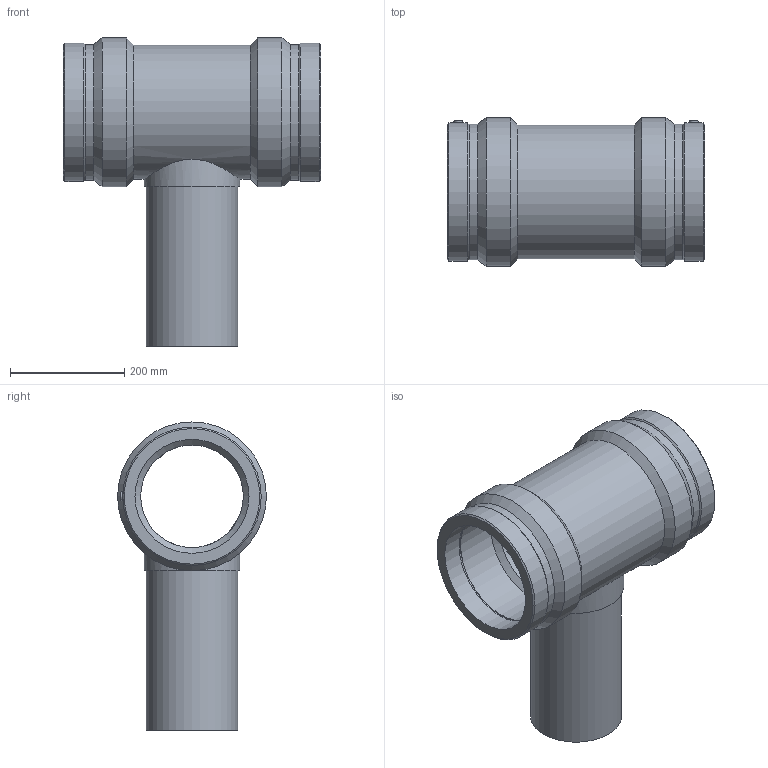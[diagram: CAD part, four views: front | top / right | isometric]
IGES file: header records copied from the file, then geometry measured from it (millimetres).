
Global section: file name: 491404200160.ipt; native system: Autodesk Inventor 2019; preprocessor: unknown; author: KIM; date: 20200621.104841; units: millimetre
Bounding box: 451 x 261 x 540.5 mm (x, y, z)
Volume: 9936896.6 mm3; surface area: 926420.3 mm2
Topology: 1 solids, 1 shells, 45 faces, 101 edges, 66 vertices
Faces by surface type: plane 12, revolution 12, cylinder 11, cone 10
Full cylindrical faces by diameter (mm): 4 x2, 160 x1, 168 x1, 234.9 x1, 237.875 x2, 242.73 x2, 261 x2
